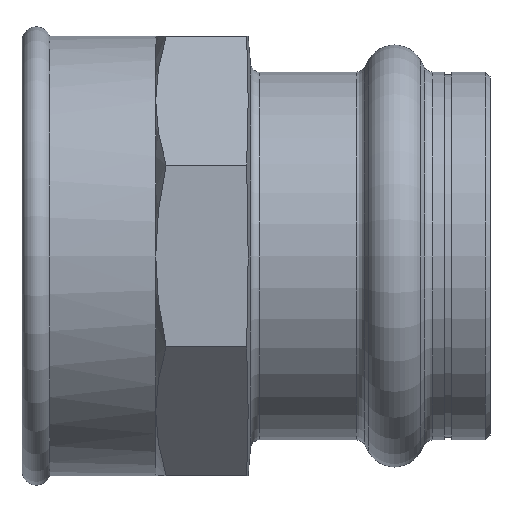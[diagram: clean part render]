
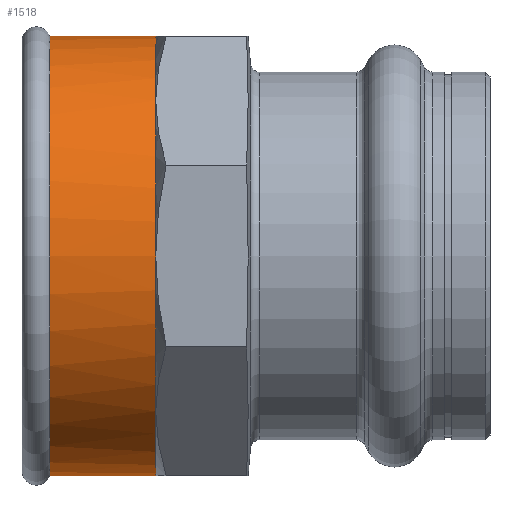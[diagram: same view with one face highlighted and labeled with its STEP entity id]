
A CAD part, left-side view. The second image highlights one B-rep face of the part: STEP entity #1518.
In plain terms, the highlighted cylindrical face has radius 23 mm (diameter 46 mm), a partial arc.
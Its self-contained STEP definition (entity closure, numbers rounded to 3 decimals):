
#24 = ORIENTED_EDGE ( 'NONE', *, *, #1479, .F. ) ;
#44 = CARTESIAN_POINT ( 'NONE',  ( 0., 35., -23. ) ) ;
#48 = LINE ( 'NONE', #1763, #1688 ) ;
#65 = EDGE_CURVE ( 'NONE', #1132, #216, #101, .T. ) ;
#101 = LINE ( 'NONE', #1533, #1698 ) ;
#111 = DIRECTION ( 'NONE',  ( 0., -1., 0. ) ) ;
#113 = EDGE_CURVE ( 'NONE', #1338, #216, #1037, .T. ) ;
#123 = DIRECTION ( 'NONE',  ( 0., -1., 0. ) ) ;
#160 = CYLINDRICAL_SURFACE ( 'NONE', #764, 23. ) ;
#170 = EDGE_CURVE ( 'NONE', #1148, #1132, #1938, .T. ) ;
#202 = EDGE_LOOP ( 'NONE', ( #672, #768, #1375, #430, #24, #612, #512 ) ) ;
#216 = VERTEX_POINT ( 'NONE', #44 ) ;
#290 = DIRECTION ( 'NONE',  ( 0., -1., 0. ) ) ;
#344 = CIRCLE ( 'NONE', #1854, 23. ) ;
#381 = CARTESIAN_POINT ( 'NONE',  ( 0., 35., 23. ) ) ;
#415 = EDGE_CURVE ( 'NONE', #1148, #630, #48, .T. ) ;
#430 = ORIENTED_EDGE ( 'NONE', *, *, #113, .F. ) ;
#512 = ORIENTED_EDGE ( 'NONE', *, *, #1774, .F. ) ;
#526 = CARTESIAN_POINT ( 'NONE',  ( 0., -17.811, 0. ) ) ;
#529 = CARTESIAN_POINT ( 'NONE',  ( -16.263, 35., 16.263 ) ) ;
#540 = DIRECTION ( 'NONE',  ( 0., -1., 0. ) ) ;
#545 = CARTESIAN_POINT ( 'NONE',  ( 0., 46.086, -23. ) ) ;
#562 = DIRECTION ( 'NONE',  ( 0., 0., -1. ) ) ;
#577 = DIRECTION ( 'NONE',  ( 0., 0., -1. ) ) ;
#612 = ORIENTED_EDGE ( 'NONE', *, *, #1878, .F. ) ;
#630 = VERTEX_POINT ( 'NONE', #381 ) ;
#672 = ORIENTED_EDGE ( 'NONE', *, *, #415, .F. ) ;
#764 = AXIS2_PLACEMENT_3D ( 'NONE', #526, #540, #562 ) ;
#768 = ORIENTED_EDGE ( 'NONE', *, *, #170, .T. ) ;
#795 = CARTESIAN_POINT ( 'NONE',  ( -16.263, 35., -16.263 ) ) ;
#919 = DIRECTION ( 'NONE',  ( 0., 0., -1. ) ) ;
#927 = CARTESIAN_POINT ( 'NONE',  ( 0., 46.086, 0. ) ) ;
#992 = CARTESIAN_POINT ( 'NONE',  ( 0., 35., 0. ) ) ;
#1037 = CIRCLE ( 'NONE', #1076, 23. ) ;
#1060 = VERTEX_POINT ( 'NONE', #529 ) ;
#1076 = AXIS2_PLACEMENT_3D ( 'NONE', #1517, #290, #1499 ) ;
#1132 = VERTEX_POINT ( 'NONE', #545 ) ;
#1148 = VERTEX_POINT ( 'NONE', #1856 ) ;
#1242 = DIRECTION ( 'NONE',  ( 0., 0., -1. ) ) ;
#1253 = DIRECTION ( 'NONE',  ( 0., 0., -1. ) ) ;
#1254 = DIRECTION ( 'NONE',  ( 0., -1., 0. ) ) ;
#1269 = DIRECTION ( 'NONE',  ( 0., -1., 0. ) ) ;
#1275 = CARTESIAN_POINT ( 'NONE',  ( 0., 35., 0. ) ) ;
#1276 = CARTESIAN_POINT ( 'NONE',  ( 0., 35., 0. ) ) ;
#1286 = CIRCLE ( 'NONE', #1299, 23. ) ;
#1299 = AXIS2_PLACEMENT_3D ( 'NONE', #992, #1334, #577 ) ;
#1334 = DIRECTION ( 'NONE',  ( 0., -1., 0. ) ) ;
#1338 = VERTEX_POINT ( 'NONE', #795 ) ;
#1375 = ORIENTED_EDGE ( 'NONE', *, *, #65, .T. ) ;
#1445 = AXIS2_PLACEMENT_3D ( 'NONE', #927, #1740, #919 ) ;
#1479 = EDGE_CURVE ( 'NONE', #1976, #1338, #1848, .T. ) ;
#1499 = DIRECTION ( 'NONE',  ( 0., 0., -1. ) ) ;
#1517 = CARTESIAN_POINT ( 'NONE',  ( 0., 35., 0. ) ) ;
#1518 = ADVANCED_FACE ( 'NONE', ( #1731 ), #160, .T. ) ;
#1533 = CARTESIAN_POINT ( 'NONE',  ( 0., -17.811, -23. ) ) ;
#1562 = AXIS2_PLACEMENT_3D ( 'NONE', #1275, #1269, #1253 ) ;
#1568 = CARTESIAN_POINT ( 'NONE',  ( -23., 35., 0. ) ) ;
#1688 = VECTOR ( 'NONE', #123, 1000. ) ;
#1698 = VECTOR ( 'NONE', #111, 1000. ) ;
#1731 = FACE_OUTER_BOUND ( 'NONE', #202, .T. ) ;
#1740 = DIRECTION ( 'NONE',  ( 0., -1., 0. ) ) ;
#1763 = CARTESIAN_POINT ( 'NONE',  ( 0., -17.811, 23. ) ) ;
#1774 = EDGE_CURVE ( 'NONE', #630, #1060, #1286, .T. ) ;
#1848 = CIRCLE ( 'NONE', #1562, 23. ) ;
#1854 = AXIS2_PLACEMENT_3D ( 'NONE', #1276, #1254, #1242 ) ;
#1856 = CARTESIAN_POINT ( 'NONE',  ( 0., 46.086, 23. ) ) ;
#1878 = EDGE_CURVE ( 'NONE', #1060, #1976, #344, .T. ) ;
#1938 = CIRCLE ( 'NONE', #1445, 23. ) ;
#1976 = VERTEX_POINT ( 'NONE', #1568 ) ;
